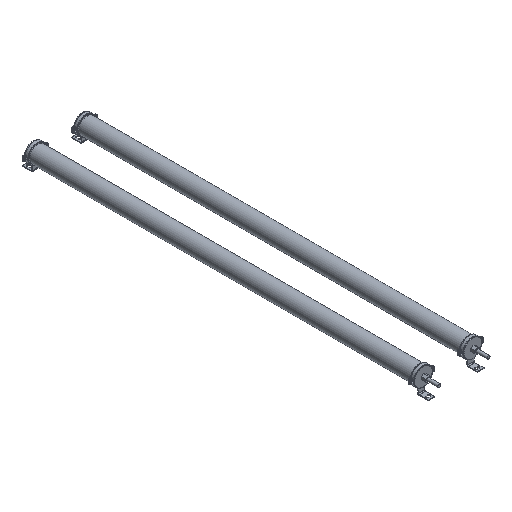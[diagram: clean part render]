
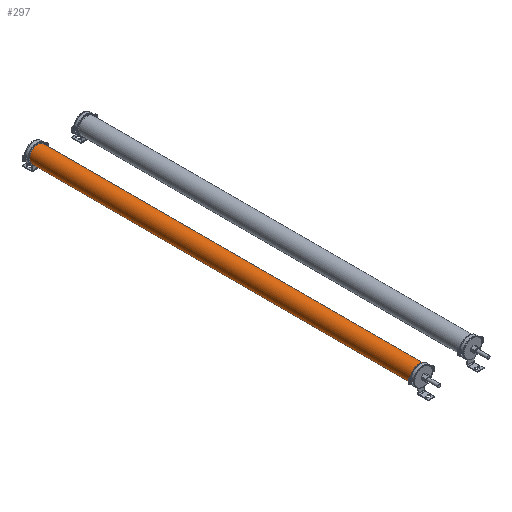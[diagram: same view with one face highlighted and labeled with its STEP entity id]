
A CAD part, isometric view. The second image highlights one B-rep face of the part: STEP entity #297.
In plain terms, the highlighted cylindrical face has radius 25 mm (diameter 50 mm), a full revolution.
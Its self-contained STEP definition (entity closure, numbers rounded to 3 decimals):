
#297 = ADVANCED_FACE( '', ( #713, #714 ), #715, .T. );
#713 = FACE_OUTER_BOUND( '', #1185, .T. );
#714 = FACE_OUTER_BOUND( '', #1186, .T. );
#715 = CYLINDRICAL_SURFACE( '', #1187, 25. );
#1185 = EDGE_LOOP( '', ( #2456 ) );
#1186 = EDGE_LOOP( '', ( #2457 ) );
#1187 = AXIS2_PLACEMENT_3D( '', #2458, #2459, #2460 );
#2456 = ORIENTED_EDGE( '', *, *, #3111, .F. );
#2457 = ORIENTED_EDGE( '', *, *, #3112, .T. );
#2458 = CARTESIAN_POINT( '', ( 0., 0., 0. ) );
#2459 = DIRECTION( '', ( 0., 1., 0. ) );
#2460 = DIRECTION( '', ( 0., 0., -1. ) );
#3111 = EDGE_CURVE( '', #3819, #3819, #3820, .T. );
#3112 = EDGE_CURVE( '', #3821, #3821, #3822, .T. );
#3819 = VERTEX_POINT( '', #4787 );
#3820 = CIRCLE( '', #4788, 25. );
#3821 = VERTEX_POINT( '', #4789 );
#3822 = CIRCLE( '', #4790, 25. );
#4787 = CARTESIAN_POINT( '', ( 0., 14., -25. ) );
#4788 = AXIS2_PLACEMENT_3D( '', #5605, #5606, #5607 );
#4789 = CARTESIAN_POINT( '', ( 0., 1175., -25. ) );
#4790 = AXIS2_PLACEMENT_3D( '', #5608, #5609, #5610 );
#5605 = CARTESIAN_POINT( '', ( 0., 14., 0. ) );
#5606 = DIRECTION( '', ( 0., -1., 0. ) );
#5607 = DIRECTION( '', ( 0., 0., -1. ) );
#5608 = CARTESIAN_POINT( '', ( 0., 1175., 0. ) );
#5609 = DIRECTION( '', ( 0., -1., 0. ) );
#5610 = DIRECTION( '', ( 0., 0., -1. ) );
